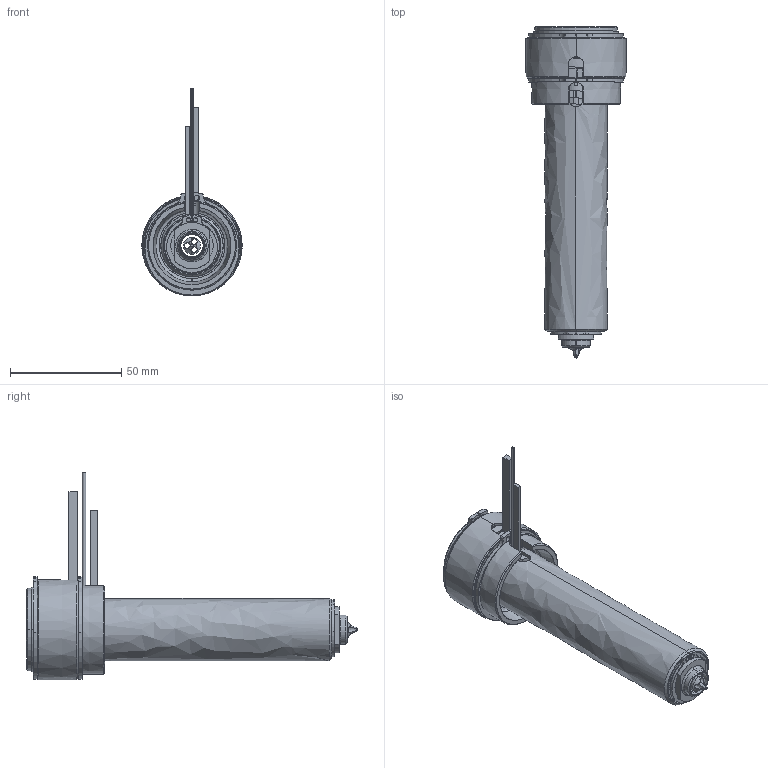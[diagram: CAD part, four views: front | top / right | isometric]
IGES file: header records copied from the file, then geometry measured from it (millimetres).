
Start section: SolidWorks IGES file using analytic representation for surfaces
Global section: file name: C:\Documents and Settings\ws-20\Desktop\TEM\UGEP4503-M-A-0 [Øf-1.17 ØC-10].IGS; native system: SolidWorks 2012; preprocessor: SolidWorks 2012; author: ws-20; date: 120424.090708; units: millimetre
Bounding box: 45 x 149.05 x 93.15 mm (x, y, z)
Surface area: 54684.3 mm2 (no closed solid volume)
Topology: 0 solids, 0 shells, 180 faces, 3367 edges, 3367 vertices
Faces by surface type: revolution 113, bspline 67
